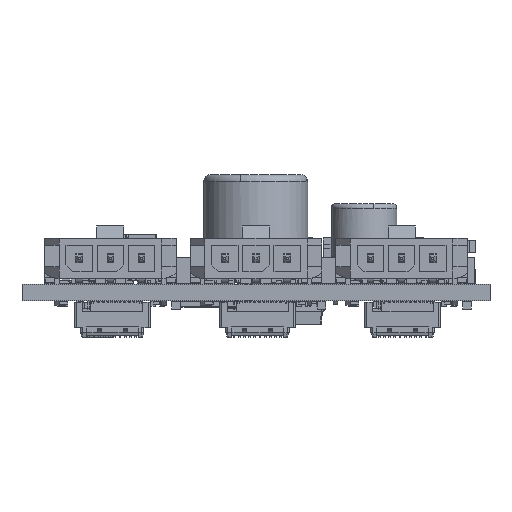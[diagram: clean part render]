
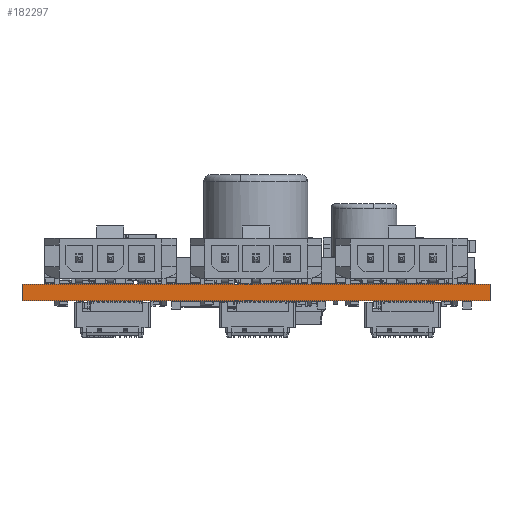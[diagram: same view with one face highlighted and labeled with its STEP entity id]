
A CAD part, front view. The second image highlights one B-rep face of the part: STEP entity #182297.
In plain terms, the highlighted planar face has unit normal (0, -1, 0).
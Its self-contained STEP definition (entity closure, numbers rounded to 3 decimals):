
#182297 = ADVANCED_FACE('',(#182298),#182312,.T.);
#182298 = FACE_BOUND('',#182299,.T.);
#182299 = EDGE_LOOP('',(#182300,#182335,#182363,#182391));
#182300 = ORIENTED_EDGE('',*,*,#182301,.T.);
#182301 = EDGE_CURVE('',#182302,#182304,#182306,.T.);
#182302 = VERTEX_POINT('',#182303);
#182303 = CARTESIAN_POINT('',(22.5,-0.,0.));
#182304 = VERTEX_POINT('',#182305);
#182305 = CARTESIAN_POINT('',(22.5,0.,1.566));
#182306 = SURFACE_CURVE('',#182307,(#182311,#182323),.PCURVE_S1.);
#182307 = LINE('',#182308,#182309);
#182308 = CARTESIAN_POINT('',(22.5,-0.,0.));
#182309 = VECTOR('',#182310,1.);
#182310 = DIRECTION('',(0.,0.,1.));
#182311 = PCURVE('',#182312,#182317);
#182312 = PLANE('',#182313);
#182313 = AXIS2_PLACEMENT_3D('',#182314,#182315,#182316);
#182314 = CARTESIAN_POINT('',(22.5,0.,0.));
#182315 = DIRECTION('',(0.,-1.,0.));
#182316 = DIRECTION('',(-1.,0.,0.));
#182317 = DEFINITIONAL_REPRESENTATION('',(#182318),#182322);
#182318 = LINE('',#182319,#182320);
#182319 = CARTESIAN_POINT('',(0.,0.));
#182320 = VECTOR('',#182321,1.);
#182321 = DIRECTION('',(0.,-1.));
#182322 = ( GEOMETRIC_REPRESENTATION_CONTEXT(2) 
PARAMETRIC_REPRESENTATION_CONTEXT() REPRESENTATION_CONTEXT('2D SPACE',''
  ) );
#182323 = PCURVE('',#182324,#182329);
#182324 = PLANE('',#182325);
#182325 = AXIS2_PLACEMENT_3D('',#182326,#182327,#182328);
#182326 = CARTESIAN_POINT('',(22.5,64.,0.));
#182327 = DIRECTION('',(1.,0.,-0.));
#182328 = DIRECTION('',(0.,-1.,0.));
#182329 = DEFINITIONAL_REPRESENTATION('',(#182330),#182334);
#182330 = LINE('',#182331,#182332);
#182331 = CARTESIAN_POINT('',(64.,0.));
#182332 = VECTOR('',#182333,1.);
#182333 = DIRECTION('',(0.,-1.));
#182334 = ( GEOMETRIC_REPRESENTATION_CONTEXT(2) 
PARAMETRIC_REPRESENTATION_CONTEXT() REPRESENTATION_CONTEXT('2D SPACE',''
  ) );
#182335 = ORIENTED_EDGE('',*,*,#182336,.T.);
#182336 = EDGE_CURVE('',#182304,#182337,#182339,.T.);
#182337 = VERTEX_POINT('',#182338);
#182338 = CARTESIAN_POINT('',(-22.5,0.,1.566));
#182339 = SURFACE_CURVE('',#182340,(#182344,#182351),.PCURVE_S1.);
#182340 = LINE('',#182341,#182342);
#182341 = CARTESIAN_POINT('',(22.5,0.,1.566));
#182342 = VECTOR('',#182343,1.);
#182343 = DIRECTION('',(-1.,0.,0.));
#182344 = PCURVE('',#182312,#182345);
#182345 = DEFINITIONAL_REPRESENTATION('',(#182346),#182350);
#182346 = LINE('',#182347,#182348);
#182347 = CARTESIAN_POINT('',(0.,-1.566));
#182348 = VECTOR('',#182349,1.);
#182349 = DIRECTION('',(1.,0.));
#182350 = ( GEOMETRIC_REPRESENTATION_CONTEXT(2) 
PARAMETRIC_REPRESENTATION_CONTEXT() REPRESENTATION_CONTEXT('2D SPACE',''
  ) );
#182351 = PCURVE('',#182352,#182357);
#182352 = PLANE('',#182353);
#182353 = AXIS2_PLACEMENT_3D('',#182354,#182355,#182356);
#182354 = CARTESIAN_POINT('',(0.,32.,1.566));
#182355 = DIRECTION('',(-0.,-0.,-1.));
#182356 = DIRECTION('',(-1.,0.,0.));
#182357 = DEFINITIONAL_REPRESENTATION('',(#182358),#182362);
#182358 = LINE('',#182359,#182360);
#182359 = CARTESIAN_POINT('',(-22.5,-32.));
#182360 = VECTOR('',#182361,1.);
#182361 = DIRECTION('',(1.,0.));
#182362 = ( GEOMETRIC_REPRESENTATION_CONTEXT(2) 
PARAMETRIC_REPRESENTATION_CONTEXT() REPRESENTATION_CONTEXT('2D SPACE',''
  ) );
#182363 = ORIENTED_EDGE('',*,*,#182364,.F.);
#182364 = EDGE_CURVE('',#182365,#182337,#182367,.T.);
#182365 = VERTEX_POINT('',#182366);
#182366 = CARTESIAN_POINT('',(-22.5,-0.,0.));
#182367 = SURFACE_CURVE('',#182368,(#182372,#182379),.PCURVE_S1.);
#182368 = LINE('',#182369,#182370);
#182369 = CARTESIAN_POINT('',(-22.5,-0.,0.));
#182370 = VECTOR('',#182371,1.);
#182371 = DIRECTION('',(0.,0.,1.));
#182372 = PCURVE('',#182312,#182373);
#182373 = DEFINITIONAL_REPRESENTATION('',(#182374),#182378);
#182374 = LINE('',#182375,#182376);
#182375 = CARTESIAN_POINT('',(45.,0.));
#182376 = VECTOR('',#182377,1.);
#182377 = DIRECTION('',(0.,-1.));
#182378 = ( GEOMETRIC_REPRESENTATION_CONTEXT(2) 
PARAMETRIC_REPRESENTATION_CONTEXT() REPRESENTATION_CONTEXT('2D SPACE',''
  ) );
#182379 = PCURVE('',#182380,#182385);
#182380 = PLANE('',#182381);
#182381 = AXIS2_PLACEMENT_3D('',#182382,#182383,#182384);
#182382 = CARTESIAN_POINT('',(-22.5,0.,0.));
#182383 = DIRECTION('',(-1.,0.,0.));
#182384 = DIRECTION('',(0.,1.,0.));
#182385 = DEFINITIONAL_REPRESENTATION('',(#182386),#182390);
#182386 = LINE('',#182387,#182388);
#182387 = CARTESIAN_POINT('',(0.,0.));
#182388 = VECTOR('',#182389,1.);
#182389 = DIRECTION('',(0.,-1.));
#182390 = ( GEOMETRIC_REPRESENTATION_CONTEXT(2) 
PARAMETRIC_REPRESENTATION_CONTEXT() REPRESENTATION_CONTEXT('2D SPACE',''
  ) );
#182391 = ORIENTED_EDGE('',*,*,#182392,.F.);
#182392 = EDGE_CURVE('',#182302,#182365,#182393,.T.);
#182393 = SURFACE_CURVE('',#182394,(#182398,#182405),.PCURVE_S1.);
#182394 = LINE('',#182395,#182396);
#182395 = CARTESIAN_POINT('',(22.5,-0.,0.));
#182396 = VECTOR('',#182397,1.);
#182397 = DIRECTION('',(-1.,0.,0.));
#182398 = PCURVE('',#182312,#182399);
#182399 = DEFINITIONAL_REPRESENTATION('',(#182400),#182404);
#182400 = LINE('',#182401,#182402);
#182401 = CARTESIAN_POINT('',(0.,0.));
#182402 = VECTOR('',#182403,1.);
#182403 = DIRECTION('',(1.,0.));
#182404 = ( GEOMETRIC_REPRESENTATION_CONTEXT(2) 
PARAMETRIC_REPRESENTATION_CONTEXT() REPRESENTATION_CONTEXT('2D SPACE',''
  ) );
#182405 = PCURVE('',#182406,#182411);
#182406 = PLANE('',#182407);
#182407 = AXIS2_PLACEMENT_3D('',#182408,#182409,#182410);
#182408 = CARTESIAN_POINT('',(0.,32.,0.));
#182409 = DIRECTION('',(-0.,-0.,-1.));
#182410 = DIRECTION('',(-1.,0.,0.));
#182411 = DEFINITIONAL_REPRESENTATION('',(#182412),#182416);
#182412 = LINE('',#182413,#182414);
#182413 = CARTESIAN_POINT('',(-22.5,-32.));
#182414 = VECTOR('',#182415,1.);
#182415 = DIRECTION('',(1.,0.));
#182416 = ( GEOMETRIC_REPRESENTATION_CONTEXT(2) 
PARAMETRIC_REPRESENTATION_CONTEXT() REPRESENTATION_CONTEXT('2D SPACE',''
  ) );
